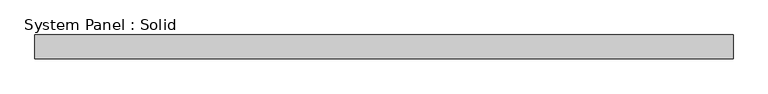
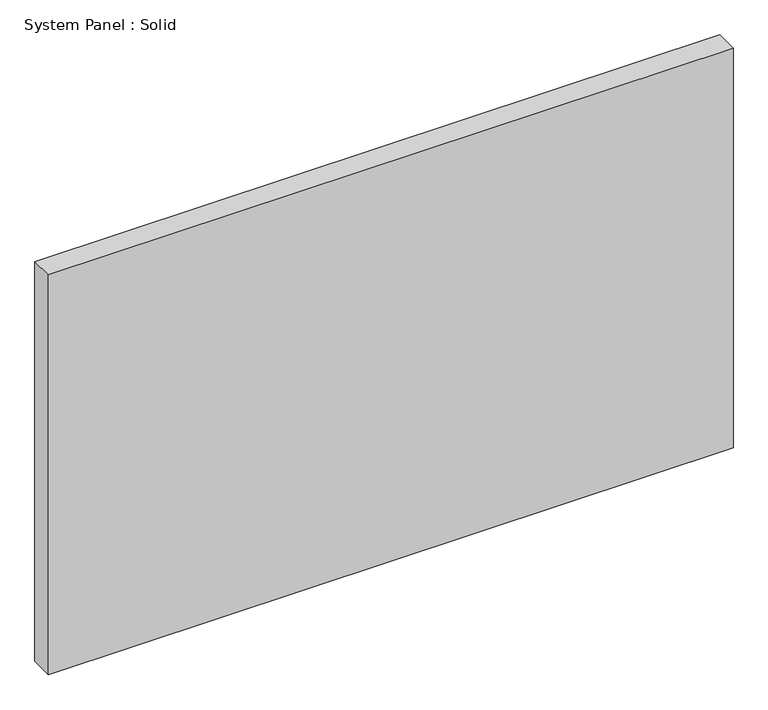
"""IFC4 building model written with IfcOpenShell, lengths in millimetres: plate geometry, System Panel : Solid."""

from ifc_helpers import new_model, si_unit, origin, origin_with_axes, place, context, project, spatial, polyline, outline, extrude, source, transform, mapped, element, save


def system_panel_solid_7d77b356(model_context):
    return source(origin(), model_context, "Body", "SweptSolid", [
        extrude(outline(polyline([(936.625, -44.45), (-936.625, -44.45), (-936.625, 19.05), (936.625, 19.05), (936.625, -44.45)])), origin_with_axes(), (0.0, 0.0, 1.0), 1155.7),
    ])


if __name__ == "__main__":
    model = new_model("IFC4")
    model_context = context("Model", 3, world=origin())
    ifc_project = project(units=[si_unit("LENGTHUNIT", "METRE", prefix="MILLI")], contexts=[model_context])
    site = spatial("IfcSite", under=ifc_project)
    building = spatial("IfcBuilding", under=site)
    placement = place(None, origin())
    system_panel_solid_shape = system_panel_solid_7d77b356(model_context)
    element("IfcPlate", 1, ObjectType="System Panel : Solid", at=placement, inside=building, context=model_context, shape_type="MappedRepresentation", body=[
        mapped(system_panel_solid_shape, transform((0.0, 0.0, 0.0), x_axis=(1.0, 0.0, 0.0), y_axis=(0.0, 1.0, 0.0), z_axis=(0.0, 0.0, 1.0))),
    ])
    save(model, "model.ifc")
